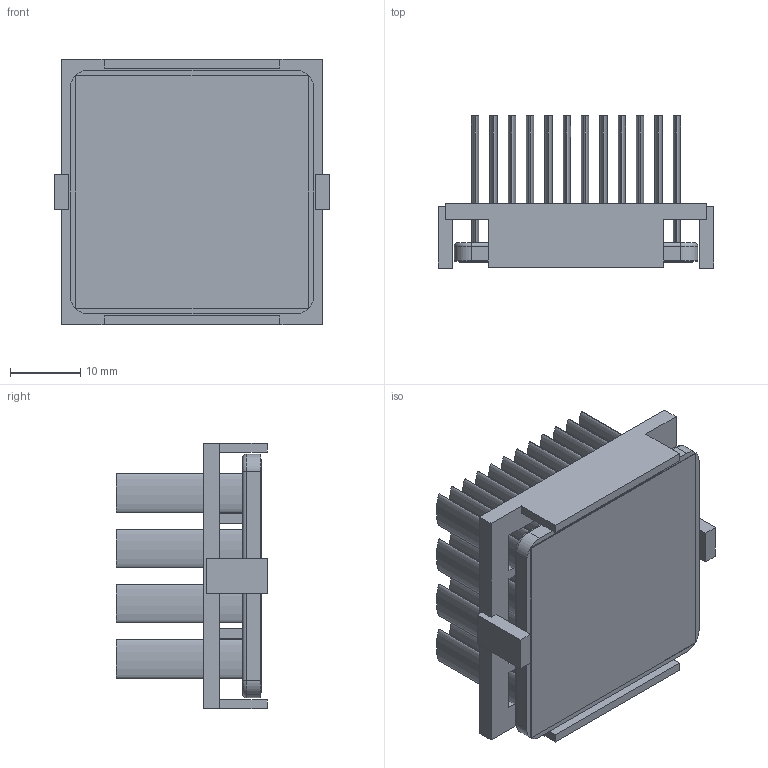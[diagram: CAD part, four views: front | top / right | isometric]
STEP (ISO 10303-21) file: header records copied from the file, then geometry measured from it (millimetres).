
FILE_DESCRIPTION (( 'STEP AP214' ), '1' );
FILE_NAME ('INM35001-21W-2.6O.STEP', '2023-02-20T22:44:52', ( '' ), ( '' ), 'SwSTEP 2.0', 'SolidWorks 2020', '' );
FILE_SCHEMA (( 'AUTOMOTIVE_DESIGN' ));
Length unit declared in the file: inch
Products named in the file (1): INM35001-21W-2.6O
Bounding box: 39.2 x 21.6 x 37.7 mm (x, y, z)
Volume: 9032.2 mm3; surface area: 17614.2 mm2
Topology: 3 solids, 3 shells, 222 faces, 496 edges, 328 vertices
Faces by surface type: plane 114, bspline 96, cylinder 8, torus 4
Entity records: 9276 total; most frequent: CARTESIAN_POINT 2295, ORIENTED_EDGE 992, DIRECTION 578, EDGE_CURVE 496, VERTEX_POINT 328, LINE 284, VECTOR 284, EDGE_LOOP 272
